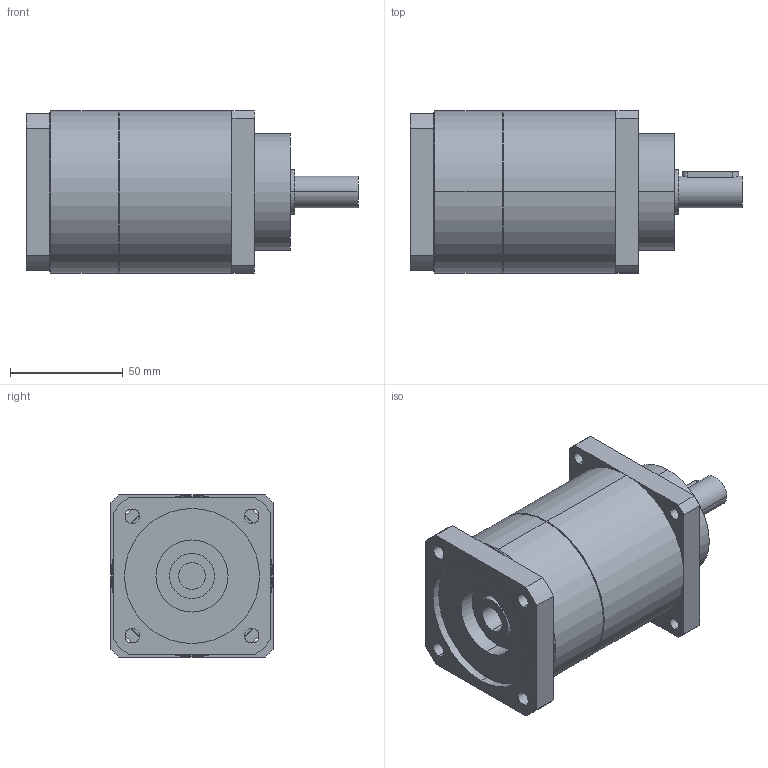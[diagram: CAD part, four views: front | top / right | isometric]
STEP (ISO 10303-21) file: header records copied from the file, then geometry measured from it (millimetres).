
FILE_DESCRIPTION(('CoCreate Modeling STEP Export'),'2;1');
FILE_NAME('GPT75_ig-9-12-16-20-25-28-35-40-50-70-100_14_B5T_12_P04.stp','2014-08-27T13:36:36',(''),(''),'CoCreate Modeling STEP processor for AP214 (Solid Model)','CoCreate Modeling 16.00C 25-Feb-2009 (C) Parametric Technology GmbH','');
FILE_SCHEMA(('AUTOMOTIVE_DESIGN { 1 0 10303 214 1 1 1 1 }'));
Length unit declared in the file: millimetre
Products named in the file (2): GPT75_ig-9-12-16-20-25-28-35-40-50-70-100_14_B5T_12_P04
Assembly tree (1 placements, depth 2):
  GPT75_ig-9-12-16-20-25-28-35-40-50-70-100_14_B5T_12_P04
    GPT75_ig-9-12-16-20-25-28-35-40-50-70-100_14_B5T_12_P04
Bounding box: 147.5 x 72 x 72 mm (x, y, z)
Volume: 450458.4 mm3; surface area: 44261 mm2
Topology: 1 solids, 1 shells, 88 faces, 220 edges, 139 vertices
Faces by surface type: cylinder 46, plane 38, cone 4
Entity records: 2646 total; most frequent: CARTESIAN_POINT 738, ORIENTED_EDGE 440, DIRECTION 334, EDGE_CURVE 220, VERTEX_POINT 139, AXIS2_PLACEMENT_3D 123, EDGE_LOOP 109, VECTOR 88
